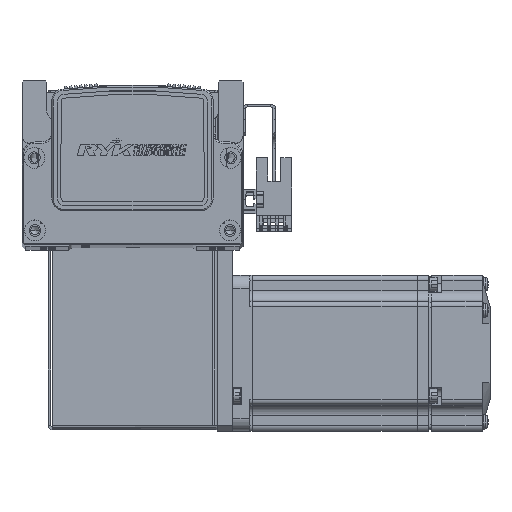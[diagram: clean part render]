
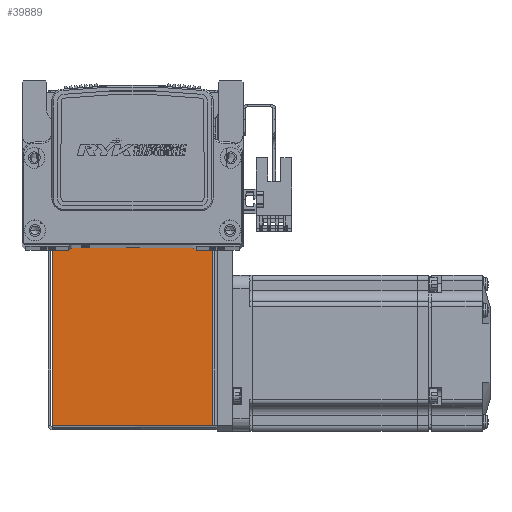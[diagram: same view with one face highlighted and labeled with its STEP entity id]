
A CAD part, top view. The second image highlights one B-rep face of the part: STEP entity #39889.
In plain terms, the highlighted planar face has unit normal (0, 0, 1).
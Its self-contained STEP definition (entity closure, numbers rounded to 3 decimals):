
#4552 = AXIS2_PLACEMENT_3D ( 'NONE', #34642, #34645, #34638 ) ;
#4909 = CARTESIAN_POINT ( 'NONE',  ( -30.793, 72.5, 35. ) ) ;
#4965 = CARTESIAN_POINT ( 'NONE',  ( 30.763, 0.737, 35. ) ) ;
#4973 = CARTESIAN_POINT ( 'NONE',  ( 30.763, 72.5, 35. ) ) ;
#5023 = CARTESIAN_POINT ( 'NONE',  ( -30.793, 0.737, 35. ) ) ;
#11930 = EDGE_CURVE ( 'NONE', #75789, #75730, #31646, .T. ) ;
#11946 = EDGE_CURVE ( 'NONE', #75789, #75852, #31616, .T. ) ;
#11988 = EDGE_CURVE ( 'NONE', #75730, #75692, #31708, .T. ) ;
#11994 = EDGE_CURVE ( 'NONE', #75852, #75692, #31749, .T. ) ;
#27998 = ORIENTED_EDGE ( 'NONE', *, *, #11930, .T. ) ;
#28000 = ORIENTED_EDGE ( 'NONE', *, *, #11946, .F. ) ;
#28030 = ORIENTED_EDGE ( 'NONE', *, *, #11994, .F. ) ;
#28034 = ORIENTED_EDGE ( 'NONE', *, *, #11988, .T. ) ;
#29800 = EDGE_LOOP ( 'NONE', ( #27998, #28034, #28030, #28000 ) ) ;
#31616 = LINE ( 'NONE', #50958, #31640 ) ;
#31640 = VECTOR ( 'NONE', #50949, 1000. ) ;
#31646 = LINE ( 'NONE', #50895, #31675 ) ;
#31675 = VECTOR ( 'NONE', #50929, 1000. ) ;
#31708 = LINE ( 'NONE', #51016, #31710 ) ;
#31710 = VECTOR ( 'NONE', #51017, 1000. ) ;
#31749 = LINE ( 'NONE', #51072, #31754 ) ;
#31754 = VECTOR ( 'NONE', #51062, 1000. ) ;
#32865 = FACE_OUTER_BOUND ( 'NONE', #29800, .T. ) ;
#34623 = PLANE ( 'NONE',  #4552 ) ;
#34638 = DIRECTION ( 'NONE',  ( -1., 0., 0. ) ) ;
#34642 = CARTESIAN_POINT ( 'NONE',  ( 0., 0., 35. ) ) ;
#34645 = DIRECTION ( 'NONE',  ( 0., 0., -1. ) ) ;
#39889 = ADVANCED_FACE ( 'NONE', ( #32865 ), #34623, .F. ) ;
#50895 = CARTESIAN_POINT ( 'NONE',  ( 30.763, 0.737, 35. ) ) ;
#50929 = DIRECTION ( 'NONE',  ( 0., 1., 0. ) ) ;
#50949 = DIRECTION ( 'NONE',  ( -1., 0., 0. ) ) ;
#50958 = CARTESIAN_POINT ( 'NONE',  ( -32.5, 0.737, 35. ) ) ;
#51016 = CARTESIAN_POINT ( 'NONE',  ( 0., 72.5, 35. ) ) ;
#51017 = DIRECTION ( 'NONE',  ( -1., 0., 0. ) ) ;
#51062 = DIRECTION ( 'NONE',  ( 0., 1., 0. ) ) ;
#51072 = CARTESIAN_POINT ( 'NONE',  ( -30.793, 0., 35. ) ) ;
#75692 = VERTEX_POINT ( 'NONE', #4909 ) ;
#75730 = VERTEX_POINT ( 'NONE', #4973 ) ;
#75789 = VERTEX_POINT ( 'NONE', #4965 ) ;
#75852 = VERTEX_POINT ( 'NONE', #5023 ) ;
